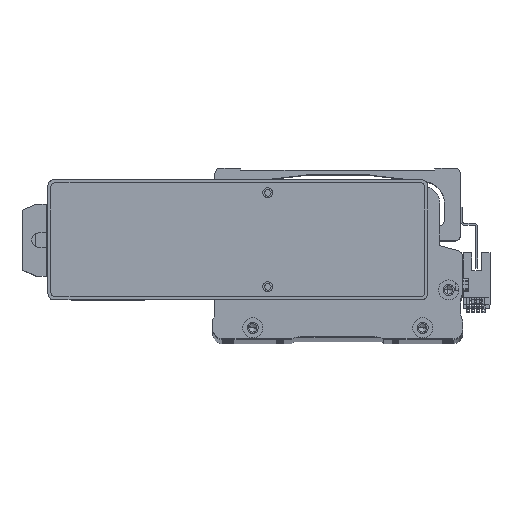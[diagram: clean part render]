
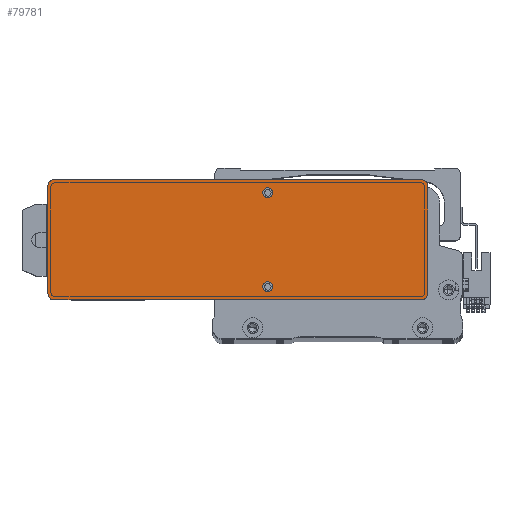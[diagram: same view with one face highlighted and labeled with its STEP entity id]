
A CAD part, top view. The second image highlights one B-rep face of the part: STEP entity #79781.
In plain terms, the highlighted planar face has unit normal (0, 0, 1) as drawn and (0, 0, -1) by its records, which use the part's own axes.
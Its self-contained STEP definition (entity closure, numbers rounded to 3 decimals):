
#666 = CIRCLE ( 'NONE', #81283, 2.5 ) ;
#1757 = VERTEX_POINT ( 'NONE', #55139 ) ;
#2253 = EDGE_CURVE ( 'NONE', #53550, #36228, #32036, .T. ) ;
#3209 = DIRECTION ( 'NONE',  ( 0., -1., 0. ) ) ;
#3267 = CARTESIAN_POINT ( 'NONE',  ( 95., -30., 0. ) ) ;
#3399 = CARTESIAN_POINT ( 'NONE',  ( 92., -30., 0. ) ) ;
#3525 = EDGE_CURVE ( 'NONE', #77075, #67017, #52617, .T. ) ;
#3628 = AXIS2_PLACEMENT_3D ( 'NONE', #56050, #37167, #81695 ) ;
#3979 = VERTEX_POINT ( 'NONE', #20119 ) ;
#8410 = VERTEX_POINT ( 'NONE', #3399 ) ;
#8691 = ORIENTED_EDGE ( 'NONE', *, *, #82279, .F. ) ;
#11346 = DIRECTION ( 'NONE',  ( 0., 0., -1. ) ) ;
#11812 = VECTOR ( 'NONE', #22342, 1000. ) ;
#13870 = CARTESIAN_POINT ( 'NONE',  ( -95., -27., 0. ) ) ;
#14660 = CARTESIAN_POINT ( 'NONE',  ( -15., -23.5, 0. ) ) ;
#15067 = ORIENTED_EDGE ( 'NONE', *, *, #28807, .T. ) ;
#15219 = EDGE_LOOP ( 'NONE', ( #46086, #58801 ) ) ;
#15299 = CARTESIAN_POINT ( 'NONE',  ( -15., 23.5, 0. ) ) ;
#18640 = ORIENTED_EDGE ( 'NONE', *, *, #36946, .F. ) ;
#20119 = CARTESIAN_POINT ( 'NONE',  ( 95., -27., 0. ) ) ;
#21038 = DIRECTION ( 'NONE',  ( -1., 0., 0. ) ) ;
#21118 = EDGE_LOOP ( 'NONE', ( #67673, #48745 ) ) ;
#21271 = CIRCLE ( 'NONE', #82101, 3. ) ;
#21368 = CARTESIAN_POINT ( 'NONE',  ( 92., 27., 0. ) ) ;
#21680 = DIRECTION ( 'NONE',  ( -1., 0., 0. ) ) ;
#21852 = AXIS2_PLACEMENT_3D ( 'NONE', #26405, #70929, #32788 ) ;
#22342 = DIRECTION ( 'NONE',  ( 1., 0., 0. ) ) ;
#22659 = CARTESIAN_POINT ( 'NONE',  ( 92., 30., 0. ) ) ;
#24596 = EDGE_CURVE ( 'NONE', #3979, #8410, #21271, .T. ) ;
#24984 = EDGE_CURVE ( 'NONE', #76752, #60093, #26195, .T. ) ;
#25732 = VERTEX_POINT ( 'NONE', #22659 ) ;
#25771 = CARTESIAN_POINT ( 'NONE',  ( -92., 30., 0. ) ) ;
#26195 = CIRCLE ( 'NONE', #21852, 3. ) ;
#26405 = CARTESIAN_POINT ( 'NONE',  ( -92., -27., 0. ) ) ;
#26815 = CARTESIAN_POINT ( 'NONE',  ( -12.5, -23.5, 0. ) ) ;
#27809 = DIRECTION ( 'NONE',  ( 1., 0., 0. ) ) ;
#28154 = CARTESIAN_POINT ( 'NONE',  ( 95., 30., 0. ) ) ;
#28807 = EDGE_CURVE ( 'NONE', #25732, #1757, #37042, .T. ) ;
#30761 = PLANE ( 'NONE',  #3628 ) ;
#30913 = CARTESIAN_POINT ( 'NONE',  ( -92., -30., 0. ) ) ;
#32036 = CIRCLE ( 'NONE', #41850, 2.5 ) ;
#32788 = DIRECTION ( 'NONE',  ( 1., 0., 0. ) ) ;
#33760 = CARTESIAN_POINT ( 'NONE',  ( -17.5, 23.5, 0. ) ) ;
#34550 = CARTESIAN_POINT ( 'NONE',  ( 92., -27., 0. ) ) ;
#35536 = LINE ( 'NONE', #47637, #67389 ) ;
#35972 = DIRECTION ( 'NONE',  ( 0., 0., -1. ) ) ;
#36228 = VERTEX_POINT ( 'NONE', #33760 ) ;
#36291 = AXIS2_PLACEMENT_3D ( 'NONE', #75068, #36950, #81455 ) ;
#36568 = CIRCLE ( 'NONE', #36291, 2.5 ) ;
#36946 = EDGE_CURVE ( 'NONE', #25732, #54718, #62812, .T. ) ;
#36950 = DIRECTION ( 'NONE',  ( 0., 0., -1. ) ) ;
#37042 = CIRCLE ( 'NONE', #77276, 3. ) ;
#37167 = DIRECTION ( 'NONE',  ( 0., 0., 1. ) ) ;
#40982 = ORIENTED_EDGE ( 'NONE', *, *, #24596, .T. ) ;
#40988 = DIRECTION ( 'NONE',  ( 1., 0., 0. ) ) ;
#41850 = AXIS2_PLACEMENT_3D ( 'NONE', #15299, #59775, #21680 ) ;
#41952 = VECTOR ( 'NONE', #72702, 1000. ) ;
#44054 = EDGE_CURVE ( 'NONE', #36228, #53550, #36568, .T. ) ;
#46086 = ORIENTED_EDGE ( 'NONE', *, *, #3525, .F. ) ;
#46205 = AXIS2_PLACEMENT_3D ( 'NONE', #14660, #59116, #21038 ) ;
#47637 = CARTESIAN_POINT ( 'NONE',  ( -95., -30., 0. ) ) ;
#48585 = FACE_OUTER_BOUND ( 'NONE', #75483, .T. ) ;
#48745 = ORIENTED_EDGE ( 'NONE', *, *, #2253, .F. ) ;
#49411 = CARTESIAN_POINT ( 'NONE',  ( -15., -23.5, 0. ) ) ;
#50501 = ORIENTED_EDGE ( 'NONE', *, *, #58453, .F. ) ;
#52014 = ORIENTED_EDGE ( 'NONE', *, *, #74461, .F. ) ;
#52617 = CIRCLE ( 'NONE', #46205, 2.5 ) ;
#53550 = VERTEX_POINT ( 'NONE', #81671 ) ;
#54525 = EDGE_CURVE ( 'NONE', #67017, #77075, #666, .T. ) ;
#54718 = VERTEX_POINT ( 'NONE', #25771 ) ;
#55139 = CARTESIAN_POINT ( 'NONE',  ( 95., 27., 0. ) ) ;
#55785 = DIRECTION ( 'NONE',  ( -1., 0., 0. ) ) ;
#56050 = CARTESIAN_POINT ( 'NONE',  ( 0., 0., 0. ) ) ;
#56855 = EDGE_CURVE ( 'NONE', #58239, #54718, #75169, .T. ) ;
#58239 = VERTEX_POINT ( 'NONE', #77785 ) ;
#58453 = EDGE_CURVE ( 'NONE', #3979, #1757, #59784, .T. ) ;
#58801 = ORIENTED_EDGE ( 'NONE', *, *, #54525, .F. ) ;
#58871 = ORIENTED_EDGE ( 'NONE', *, *, #56855, .T. ) ;
#59116 = DIRECTION ( 'NONE',  ( 0., 0., -1. ) ) ;
#59775 = DIRECTION ( 'NONE',  ( 0., 0., -1. ) ) ;
#59784 = LINE ( 'NONE', #3267, #76807 ) ;
#60093 = VERTEX_POINT ( 'NONE', #13870 ) ;
#62812 = LINE ( 'NONE', #28154, #41952 ) ;
#63496 = FACE_BOUND ( 'NONE', #21118, .T. ) ;
#64682 = ORIENTED_EDGE ( 'NONE', *, *, #24984, .T. ) ;
#65895 = DIRECTION ( 'NONE',  ( 0., 0., -1. ) ) ;
#66615 = DIRECTION ( 'NONE',  ( 0., 1., 0. ) ) ;
#66874 = CARTESIAN_POINT ( 'NONE',  ( 95., -30., 0. ) ) ;
#67017 = VERTEX_POINT ( 'NONE', #26815 ) ;
#67389 = VECTOR ( 'NONE', #3209, 1000. ) ;
#67673 = ORIENTED_EDGE ( 'NONE', *, *, #44054, .F. ) ;
#70929 = DIRECTION ( 'NONE',  ( 0., 0., -1. ) ) ;
#72702 = DIRECTION ( 'NONE',  ( -1., 0., 0. ) ) ;
#72882 = CARTESIAN_POINT ( 'NONE',  ( -17.5, -23.5, 0. ) ) ;
#74075 = CARTESIAN_POINT ( 'NONE',  ( -92., 27., 0. ) ) ;
#74461 = EDGE_CURVE ( 'NONE', #76752, #8410, #77475, .T. ) ;
#75068 = CARTESIAN_POINT ( 'NONE',  ( -15., 23.5, 0. ) ) ;
#75169 = CIRCLE ( 'NONE', #80903, 3. ) ;
#75483 = EDGE_LOOP ( 'NONE', ( #50501, #40982, #52014, #64682, #8691, #58871, #18640, #15067 ) ) ;
#76752 = VERTEX_POINT ( 'NONE', #30913 ) ;
#76807 = VECTOR ( 'NONE', #66615, 1000. ) ;
#77075 = VERTEX_POINT ( 'NONE', #72882 ) ;
#77276 = AXIS2_PLACEMENT_3D ( 'NONE', #21368, #65895, #27809 ) ;
#77475 = LINE ( 'NONE', #66874, #11812 ) ;
#77785 = CARTESIAN_POINT ( 'NONE',  ( -95., 27., 0. ) ) ;
#79058 = DIRECTION ( 'NONE',  ( 0., 0., -1. ) ) ;
#79781 = ADVANCED_FACE ( 'NONE', ( #63496, #48585, #82456 ), #30761, .F. ) ;
#80480 = DIRECTION ( 'NONE',  ( 1., 0., 0. ) ) ;
#80903 = AXIS2_PLACEMENT_3D ( 'NONE', #74075, #35972, #80480 ) ;
#81283 = AXIS2_PLACEMENT_3D ( 'NONE', #49411, #11346, #55785 ) ;
#81455 = DIRECTION ( 'NONE',  ( -1., 0., 0. ) ) ;
#81671 = CARTESIAN_POINT ( 'NONE',  ( -12.5, 23.5, 0. ) ) ;
#81695 = DIRECTION ( 'NONE',  ( 1., 0., 0. ) ) ;
#82101 = AXIS2_PLACEMENT_3D ( 'NONE', #34550, #79058, #40988 ) ;
#82279 = EDGE_CURVE ( 'NONE', #58239, #60093, #35536, .T. ) ;
#82456 = FACE_BOUND ( 'NONE', #15219, .T. ) ;
